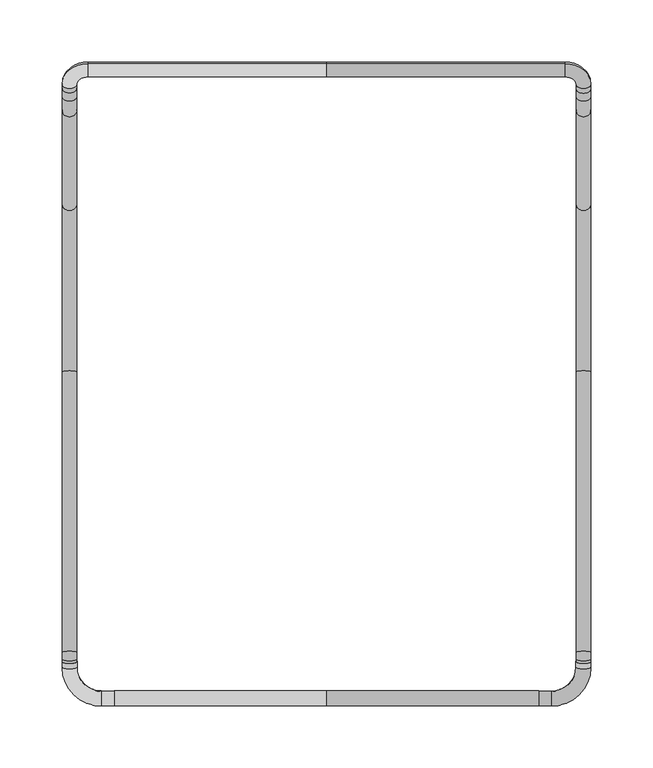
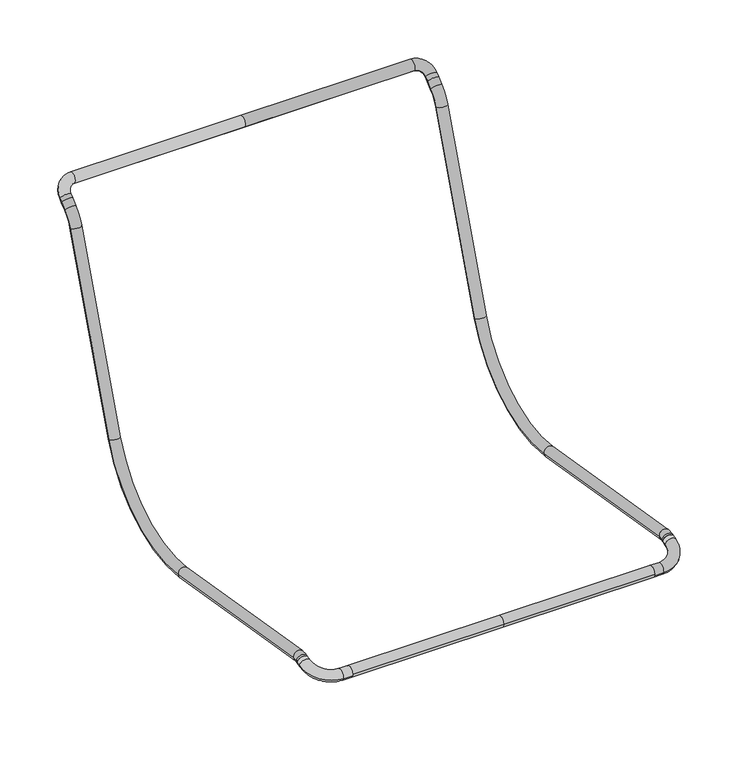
"""IFC4 building model written with IfcOpenShell, lengths in millimetres: furniture geometry, Vestre - Munch - 5113 : Vestre - Munch - 5113."""

from ifc_helpers import new_model, si_unit, point, frame, origin, place, context, project, spatial, circle_curve, ellipse_curve, trimmed, source, transform, mapped, element, save
from ifc_brep_helpers import plane_surface, cylinder_surface, revolved_surface, advanced_brep


def furniture_f1a448c8(model_context):
    return source(origin(), model_context, "Body", "AdvancedBrep", [
        advanced_brep(
        [(-213.2134791, 240.781558, 729.3874577), (-213.2134791, 234.5551993, 724.1629224), (-201.2134791, 234.5551993, 724.1629224), (-201.2134791, 240.781558, 729.3874577), (-213.2134791, 223.55476, 708.452667), (-201.2134791, 223.55476, 708.452667), (-213.2134791, 148.1249235, 501.2108943), (-201.2134791, 148.1249235, 501.2108943), (-213.2134791, 12.4655959, 422.023671), (-201.2134791, 12.4655959, 422.023671), (-213.2134791, -213.6326355, 459.6728383), (-201.2134791, -213.6326355, 459.6728383), (-213.2134791, -219.0054278, 459.4126014), (-201.2134791, -219.0054278, 459.4126014), (-213.2134791, -221.1282149, 458.8438023), (-201.2134791, -221.1282149, 458.8438023), (0.0, 260.6987135, 746.0999355), (-192.2134791, 260.6987135, 746.0999355), (-192.2134791, 251.5061802, 738.3864842), (0.0, 251.5061802, 738.3864842), (-213.2134791, 244.6117802, 732.6013957), (-201.2134791, 244.6117802, 732.6013957), (213.2134791, -221.1282149, 458.8438023), (201.2134791, -221.1282149, 458.8438023), (192.2134791, 251.5061802, 738.3864842), (192.2134791, 260.6987135, 746.0999355), (201.2134791, 244.6117802, 732.6013957), (213.2134791, 244.6117802, 732.6013957), (201.2134791, 240.781558, 729.3874577), (213.2134791, 240.781558, 729.3874577), (201.2134791, 234.5551993, 724.1629224), (213.2134791, 234.5551993, 724.1629224), (201.2134791, 223.55476, 708.452667), (213.2134791, 223.55476, 708.452667), (201.2134791, 148.1249235, 501.2108943), (213.2134791, 148.1249235, 501.2108943), (201.2134791, 12.4655959, 422.023671), (213.2134791, 12.4655959, 422.023671), (201.2134791, -213.6326355, 459.6728383), (213.2134791, -213.6326355, 459.6728383), (201.2134791, -219.0054278, 459.4126014), (213.2134791, -219.0054278, 459.4126014)],
        [
            (0, 1),
            (1, 2, circle_curve(frame((-207.2134791, 234.5551993, 724.1629224), z_axis=(0.0, 0.7660444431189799, 0.6427876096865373), x_axis=(1.0, 0.0, 0.0)), 6.0)),
            (2, 3),
            (3, 0, circle_curve(frame((-207.2134791, 240.781558, 729.3874577), z_axis=(0.0, -0.7660444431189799, -0.6427876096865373), x_axis=(1.0, 0.0, 0.0)), 6.0)),
            (0, 3, circle_curve(frame((-207.2134791, 240.781558, 729.3874577), z_axis=(0.0, -0.7660444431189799, -0.6427876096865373), x_axis=(1.0, 0.0, 0.0)), 6.0)),
            (2, 1, circle_curve(frame((-207.2134791, 234.5551993, 724.1629224), z_axis=(0.0, 0.7660444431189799, 0.6427876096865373), x_axis=(1.0, 0.0, 0.0)), 6.0)),
            (1, 4, circle_curve(frame((-213.2134791, 258.3707155, 695.7806955), z_axis=(1.0, 0.0, 0.0), x_axis=(0.0, -0.6427876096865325, 0.7660444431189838)), 37.0503659)),
            (4, 5, circle_curve(frame((-207.2134791, 223.55476, 708.452667), z_axis=(0.0, 0.34202014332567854, 0.9396926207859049), x_axis=(1.0, 0.0, 0.0)), 6.0)),
            (5, 2, circle_curve(frame((-201.2134791, 258.3707155, 695.7806955), z_axis=(-1.0, 0.0, 0.0), x_axis=(0.0, -0.6427876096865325, 0.7660444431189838)), 37.0503659)),
            (5, 4, circle_curve(frame((-207.2134791, 223.55476, 708.452667), z_axis=(0.0, 0.34202014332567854, 0.9396926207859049), x_axis=(1.0, 0.0, 0.0)), 6.0)),
            (4, 6),
            (6, 7, circle_curve(frame((-207.2134791, 148.1249235, 501.2108943), z_axis=(0.0, 0.34202014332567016, 0.939692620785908), x_axis=(1.0, 0.0, 0.0)), 6.0)),
            (7, 5),
            (7, 6, circle_curve(frame((-207.2134791, 148.1249235, 501.2108943), z_axis=(0.0, 0.34202014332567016, 0.939692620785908), x_axis=(1.0, 0.0, 0.0)), 6.0)),
            (6, 8, circle_curve(frame((-213.2134791, 32.6502009, 543.2402562), z_axis=(-1.0, 0.0, 0.0), x_axis=(0.0, 0.9396926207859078, -0.3420201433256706)), 122.8856331)),
            (8, 9, circle_curve(frame((-207.2134791, 12.4655959, 422.023671), z_axis=(0.0, 0.9864178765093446, -0.1642552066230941), x_axis=(1.0, 0.0, 0.0)), 6.0)),
            (9, 7, circle_curve(frame((-201.2134791, 32.6502009, 543.2402562), z_axis=(1.0, 0.0, 0.0), x_axis=(0.0, 0.9396926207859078, -0.3420201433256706)), 122.8856331)),
            (9, 8, circle_curve(frame((-207.2134791, 12.4655959, 422.023671), z_axis=(0.0, 0.9864178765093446, -0.1642552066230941), x_axis=(1.0, 0.0, 0.0)), 6.0)),
            (8, 10),
            (10, 11, circle_curve(frame((-207.2134791, -213.6326355, 459.6728383), z_axis=(0.0, 0.9864178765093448, -0.1642552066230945), x_axis=(1.0, 0.0, 0.0)), 6.0)),
            (11, 9),
            (11, 10, circle_curve(frame((-207.2134791, -213.6326355, 459.6728383), z_axis=(0.0, 0.9864178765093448, -0.1642552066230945), x_axis=(1.0, 0.0, 0.0)), 6.0)),
            (10, 12, circle_curve(frame((-213.2134791, -215.7185793, 447.1459159), z_axis=(1.0, 0.0, 0.0), x_axis=(0.0, 0.16425520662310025, 0.9864178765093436)), 12.6994073)),
            (12, 13, circle_curve(frame((-207.2134791, -219.0054278, 459.4126014), z_axis=(0.0, 0.9659258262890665, 0.25881904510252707), x_axis=(1.0, 0.0, 0.0)), 6.0)),
            (13, 11, circle_curve(frame((-201.2134791, -215.7185793, 447.1459159), z_axis=(-1.0, 0.0, 0.0), x_axis=(0.0, 0.16425520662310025, 0.9864178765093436)), 12.6994073)),
            (13, 12, circle_curve(frame((-207.2134791, -219.0054278, 459.4126014), z_axis=(0.0, 0.9659258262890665, 0.25881904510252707), x_axis=(1.0, 0.0, 0.0)), 6.0)),
            (12, 14),
            (14, 15, circle_curve(frame((-207.2134791, -221.1282149, 458.8438023), z_axis=(0.0, 0.9659258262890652, 0.2588190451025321), x_axis=(1.0, 0.0, 0.0)), 6.0)),
            (15, 13),
            (15, 14, circle_curve(frame((-207.2134791, -221.1282149, 458.8438023), z_axis=(0.0, 0.9659258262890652, 0.2588190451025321), x_axis=(1.0, 0.0, 0.0)), 6.0)),
            (16, 17),
            (17, 18, circle_curve(frame((-192.2134791, 256.1024468, 742.2432099), z_axis=(1.0, 0.0, 0.0), x_axis=(0.0, -0.7660444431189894, -0.6427876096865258)), 6.0)),
            (18, 19),
            (19, 16, circle_curve(frame((0.0, 256.1024468, 742.2432099), z_axis=(-1.0, 0.0, 0.0), x_axis=(0.0, -0.7660444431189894, -0.6427876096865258)), 6.0)),
            (16, 19, circle_curve(frame((0.0, 256.1024468, 742.2432099), z_axis=(-1.0, 0.0, 0.0), x_axis=(0.0, -0.7660444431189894, -0.6427876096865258)), 6.0)),
            (18, 17, circle_curve(frame((-192.2134791, 256.1024468, 742.2432099), z_axis=(1.0, 0.0, 0.0), x_axis=(0.0, -0.7660444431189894, -0.6427876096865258)), 6.0)),
            (17, 20, circle_curve(frame((-192.2134791, 244.6117802, 732.6013957), z_axis=(0.0, -0.6427876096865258, 0.7660444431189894), x_axis=(0.0, 0.7660444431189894, 0.6427876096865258)), 21.0)),
            (20, 21, circle_curve(frame((-207.2134791, 244.6117802, 732.6013957), z_axis=(0.0, 0.7660444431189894, 0.6427876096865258), x_axis=(1.0000000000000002, 0.0, 0.0)), 6.0)),
            (21, 18, circle_curve(frame((-192.2134791, 244.6117802, 732.6013957), z_axis=(0.0, 0.6427876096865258, -0.7660444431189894), x_axis=(0.0, 0.7660444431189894, 0.6427876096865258)), 9.0)),
            (21, 20, circle_curve(frame((-207.2134791, 244.6117802, 732.6013957), z_axis=(0.0, 0.7660444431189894, 0.6427876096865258), x_axis=(1.0000000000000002, 0.0, 0.0)), 6.0)),
            (20, 0),
            (3, 21),
            (22, 23, circle_curve(frame((207.2134791, -221.1282149, 458.8438023), z_axis=(0.0, -0.9659258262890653, -0.258819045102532), x_axis=(-1.0, 0.0, 0.0)), 6.0)),
            (23, 22, circle_curve(frame((207.2134791, -221.1282149, 458.8438023), z_axis=(0.0, -0.9659258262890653, -0.258819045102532), x_axis=(-1.0, 0.0, 0.0)), 6.0)),
            (19, 24),
            (24, 25, circle_curve(frame((192.2134791, 256.1024468, 742.2432099), z_axis=(-1.0, 0.0, 0.0), x_axis=(0.0, -0.7660444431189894, -0.6427876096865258)), 6.0)),
            (25, 16),
            (25, 24, circle_curve(frame((192.2134791, 256.1024468, 742.2432099), z_axis=(-1.0, 0.0, 0.0), x_axis=(0.0, -0.7660444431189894, -0.6427876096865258)), 6.0)),
            (24, 26, circle_curve(frame((192.2134791, 244.6117802, 732.6013957), z_axis=(0.0, 0.6427876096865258, -0.7660444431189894), x_axis=(0.0, 0.7660444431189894, 0.6427876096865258)), 9.0)),
            (26, 27, circle_curve(frame((207.2134791, 244.6117802, 732.6013957), z_axis=(0.0, 0.7660444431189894, 0.6427876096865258), x_axis=(-1.0000000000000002, 0.0, 0.0)), 6.0)),
            (27, 25, circle_curve(frame((192.2134791, 244.6117802, 732.6013957), z_axis=(0.0, -0.6427876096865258, 0.7660444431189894), x_axis=(0.0, 0.7660444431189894, 0.6427876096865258)), 21.0)),
            (27, 26, circle_curve(frame((207.2134791, 244.6117802, 732.6013957), z_axis=(0.0, 0.7660444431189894, 0.6427876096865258), x_axis=(-1.0000000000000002, 0.0, 0.0)), 6.0)),
            (26, 28),
            (28, 29, circle_curve(frame((207.2134791, 240.781558, 729.3874577), z_axis=(0.0, 0.7660444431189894, 0.6427876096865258), x_axis=(-1.0, 0.0, 0.0)), 6.0)),
            (29, 27),
            (29, 28, circle_curve(frame((207.2134791, 240.781558, 729.3874577), z_axis=(0.0, 0.7660444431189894, 0.6427876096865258), x_axis=(-1.0, 0.0, 0.0)), 6.0)),
            (28, 30),
            (30, 31, circle_curve(frame((207.2134791, 234.5551993, 724.1629224), z_axis=(0.0, 0.7660444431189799, 0.6427876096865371), x_axis=(-1.0, 0.0, 0.0)), 6.0)),
            (31, 29),
            (31, 30, circle_curve(frame((207.2134791, 234.5551993, 724.1629224), z_axis=(0.0, 0.7660444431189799, 0.6427876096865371), x_axis=(-1.0, 0.0, 0.0)), 6.0)),
            (30, 32, circle_curve(frame((201.2134791, 258.3707155, 695.7806955), z_axis=(1.0, 0.0, 0.0), x_axis=(0.0, -0.6427876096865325, 0.7660444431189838)), 37.0503659)),
            (32, 33, circle_curve(frame((207.2134791, 223.55476, 708.452667), z_axis=(0.0, 0.34202014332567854, 0.9396926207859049), x_axis=(-1.0, 0.0, 0.0)), 6.0)),
            (33, 31, circle_curve(frame((213.2134791, 258.3707155, 695.7806955), z_axis=(-1.0, 0.0, 0.0), x_axis=(0.0, -0.6427876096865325, 0.7660444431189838)), 37.0503659)),
            (33, 32, circle_curve(frame((207.2134791, 223.55476, 708.452667), z_axis=(0.0, 0.34202014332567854, 0.9396926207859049), x_axis=(-1.0, 0.0, 0.0)), 6.0)),
            (32, 34),
            (34, 35, circle_curve(frame((207.2134791, 148.1249235, 501.2108943), z_axis=(0.0, 0.3420201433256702, 0.9396926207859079), x_axis=(-1.0, 0.0, 0.0)), 6.0)),
            (35, 33),
            (35, 34, circle_curve(frame((207.2134791, 148.1249235, 501.2108943), z_axis=(0.0, 0.3420201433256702, 0.9396926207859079), x_axis=(-1.0, 0.0, 0.0)), 6.0)),
            (34, 36, circle_curve(frame((201.2134791, 32.6502009, 543.2402562), z_axis=(-1.0, 0.0, 0.0), x_axis=(0.0, 0.9396926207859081, -0.34202014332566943)), 122.8856331)),
            (36, 37, circle_curve(frame((207.2134791, 12.4655959, 422.023671), z_axis=(0.0, 0.9864178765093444, -0.16425520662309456), x_axis=(-1.0, 0.0, 0.0)), 6.0)),
            (37, 35, circle_curve(frame((213.2134791, 32.6502009, 543.2402562), z_axis=(1.0, 0.0, 0.0), x_axis=(0.0, 0.9396926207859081, -0.34202014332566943)), 122.8856331)),
            (37, 36, circle_curve(frame((207.2134791, 12.4655959, 422.023671), z_axis=(0.0, 0.9864178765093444, -0.16425520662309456), x_axis=(-1.0, 0.0, 0.0)), 6.0)),
            (36, 38),
            (38, 39, circle_curve(frame((207.2134791, -213.6326355, 459.6728383), z_axis=(0.0, 0.9864178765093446, -0.16425520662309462), x_axis=(-1.0, 0.0, 0.0)), 6.0)),
            (39, 37),
            (39, 38, circle_curve(frame((207.2134791, -213.6326355, 459.6728383), z_axis=(0.0, 0.9864178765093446, -0.16425520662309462), x_axis=(-1.0, 0.0, 0.0)), 6.0)),
            (38, 40, circle_curve(frame((201.2134791, -215.7185793, 447.1459159), z_axis=(1.0, 0.0, 0.0), x_axis=(0.0, 0.1642552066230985, 0.9864178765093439)), 12.6994073)),
            (40, 41, circle_curve(frame((207.2134791, -219.0054278, 459.4126014), z_axis=(0.0, 0.9659258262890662, 0.2588190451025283), x_axis=(-1.0, 0.0, 0.0)), 6.0)),
            (41, 39, circle_curve(frame((213.2134791, -215.7185793, 447.1459159), z_axis=(-1.0, 0.0, 0.0), x_axis=(0.0, 0.1642552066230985, 0.9864178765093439)), 12.6994073)),
            (41, 40, circle_curve(frame((207.2134791, -219.0054278, 459.4126014), z_axis=(0.0, 0.9659258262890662, 0.2588190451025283), x_axis=(-1.0, 0.0, 0.0)), 6.0)),
            (40, 23),
            (22, 41),
        ],
        [
            cylinder_surface(frame((-207.2134791, 240.781558, 729.3874577), z_axis=(0.0, 0.7660444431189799, 0.6427876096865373), x_axis=(1.0, 0.0, 0.0)), 6.0),
            revolved_surface(trimmed(ellipse_curve(frame((-207.2134791, 234.5551993, 724.1629224), z_axis=(0.0, 0.7660444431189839, 0.6427876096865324), x_axis=(1.0, 0.0, 0.0)), 6.0, 6.0), [point((-213.2134791, 234.5551993, 724.1629224))], [point((-201.2134791, 234.5551993, 724.1629224))], True, "CARTESIAN"), (0.0, 258.3707155, 695.7806955), (1.0, 0.0, 0.0)),
            revolved_surface(trimmed(ellipse_curve(frame((-207.2134791, 234.5551993, 724.1629224), z_axis=(0.0, 0.7660444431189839, 0.6427876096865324), x_axis=(1.0, 0.0, 0.0)), 6.0, 6.0), [point((-201.2134791, 234.5551993, 724.1629224))], [point((-213.2134791, 234.5551993, 724.1629224))], True, "CARTESIAN"), (0.0, 258.3707155, 695.7806955), (1.0, 0.0, 0.0)),
            cylinder_surface(frame((-207.2134791, 223.55476, 708.452667), z_axis=(0.0, 0.34202014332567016, 0.939692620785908), x_axis=(1.0, 0.0, 0.0)), 6.0),
            revolved_surface(trimmed(ellipse_curve(frame((-207.2134791, 148.1249235, 501.2108943), z_axis=(0.0, 0.3420201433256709, 0.9396926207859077), x_axis=(1.0, 0.0, 0.0)), 6.0, 6.0), [point((-213.2134791, 148.1249235, 501.2108943))], [point((-201.2134791, 148.1249235, 501.2108943))], True, "CARTESIAN"), (0.0, 32.6502009, 543.2402562), (-1.0, 0.0, 0.0)),
            revolved_surface(trimmed(ellipse_curve(frame((-207.2134791, 148.1249235, 501.2108943), z_axis=(0.0, 0.3420201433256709, 0.9396926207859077), x_axis=(1.0, 0.0, 0.0)), 6.0, 6.0), [point((-201.2134791, 148.1249235, 501.2108943))], [point((-213.2134791, 148.1249235, 501.2108943))], True, "CARTESIAN"), (0.0, 32.6502009, 543.2402562), (-1.0, 0.0, 0.0)),
            cylinder_surface(frame((-207.2134791, 12.4655959, 422.023671), z_axis=(0.0, 0.9864178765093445, -0.16425520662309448), x_axis=(1.0, 0.0, 0.0)), 6.0),
            revolved_surface(trimmed(ellipse_curve(frame((-207.2134791, -213.6326355, 459.6728383), z_axis=(0.0, 0.9864178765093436, -0.16425520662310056), x_axis=(1.0, 0.0, 0.0)), 6.0, 6.0), [point((-213.2134791, -213.6326355, 459.6728383))], [point((-201.2134791, -213.6326355, 459.6728383))], True, "CARTESIAN"), (0.0, -215.7185793, 447.1459159), (1.0, 0.0, 0.0)),
            revolved_surface(trimmed(ellipse_curve(frame((-207.2134791, -213.6326355, 459.6728383), z_axis=(0.0, 0.9864178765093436, -0.16425520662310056), x_axis=(1.0, 0.0, 0.0)), 6.0, 6.0), [point((-201.2134791, -213.6326355, 459.6728383))], [point((-213.2134791, -213.6326355, 459.6728383))], True, "CARTESIAN"), (0.0, -215.7185793, 447.1459159), (1.0, 0.0, 0.0)),
            cylinder_surface(frame((-207.2134791, -219.0054278, 459.4126014), z_axis=(0.0, 0.9659258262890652, 0.2588190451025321), x_axis=(1.0, 0.0, 0.0)), 6.0),
            plane_surface(frame((-194.1292893, -218.0064913, 447.193371), z_axis=(0.0, -0.9659258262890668, -0.2588190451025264), x_axis=(-1.0, 0.0, 0.0))),
            cylinder_surface(frame((0.0, 256.1024468, 742.2432099), z_axis=(1.0000000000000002, 0.0, 0.0), x_axis=(0.0, -0.7660444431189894, -0.6427876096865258)), 6.0),
            revolved_surface(trimmed(ellipse_curve(frame((-192.2134791, 256.1024468, 742.2432099), z_axis=(1.0000000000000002, 0.0, 0.0), x_axis=(0.0, -0.7660444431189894, -0.6427876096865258)), 6.0, 6.0), [point((-192.2134791, 260.6987135, 746.0999355))], [point((-192.2134791, 251.5061802, 738.3864842))], True, "CARTESIAN"), (-192.2134791, 724.1170436, 161.1492754), (0.0, -0.6427876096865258, 0.7660444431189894)),
            revolved_surface(trimmed(ellipse_curve(frame((-192.2134791, 256.1024468, 742.2432099), z_axis=(1.0000000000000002, 0.0, 0.0), x_axis=(0.0, -0.7660444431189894, -0.6427876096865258)), 6.0, 6.0), [point((-192.2134791, 251.5061802, 738.3864842))], [point((-192.2134791, 260.6987135, 746.0999355))], True, "CARTESIAN"), (-192.2134791, 724.1170436, 161.1492754), (0.0, -0.6427876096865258, 0.7660444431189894)),
            cylinder_surface(frame((-207.2134791, 244.6117802, 732.6013957), z_axis=(0.0, 0.7660444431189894, 0.6427876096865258), x_axis=(1.0, 0.0, 0.0)), 6.0),
            plane_surface(frame((194.1292893, -226.6812485, 479.5680059), z_axis=(0.0, -0.9659258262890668, -0.2588190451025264), x_axis=(1.0, 0.0, 0.0))),
            cylinder_surface(frame((0.0, 256.1024468, 742.2432099), z_axis=(-1.0000000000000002, 0.0, 0.0), x_axis=(0.0, -0.7660444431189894, -0.6427876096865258)), 6.0),
            revolved_surface(trimmed(ellipse_curve(frame((192.2134791, 256.1024468, 742.2432099), z_axis=(-1.0000000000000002, 0.0, 0.0), x_axis=(0.0, -0.7660444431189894, -0.6427876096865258)), 6.0, 6.0), [point((192.2134791, 251.5061802, 738.3864842))], [point((192.2134791, 260.6987135, 746.0999355))], True, "CARTESIAN"), (192.2134791, 724.1170436, 161.1492754), (0.0, 0.6427876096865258, -0.7660444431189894)),
            revolved_surface(trimmed(ellipse_curve(frame((192.2134791, 256.1024468, 742.2432099), z_axis=(-1.0000000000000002, 0.0, 0.0), x_axis=(0.0, -0.7660444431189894, -0.6427876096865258)), 6.0, 6.0), [point((192.2134791, 260.6987135, 746.0999355))], [point((192.2134791, 251.5061802, 738.3864842))], True, "CARTESIAN"), (192.2134791, 724.1170436, 161.1492754), (0.0, 0.6427876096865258, -0.7660444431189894)),
            cylinder_surface(frame((207.2134791, 244.6117802, 732.6013957), z_axis=(0.0, 0.7660444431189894, 0.6427876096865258), x_axis=(-1.0, 0.0, 0.0)), 6.0),
            cylinder_surface(frame((207.2134791, 240.781558, 729.3874577), z_axis=(0.0, 0.7660444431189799, 0.6427876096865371), x_axis=(-1.0, 0.0, 0.0)), 6.0),
            revolved_surface(trimmed(ellipse_curve(frame((207.2134791, 234.5551993, 724.1629224), z_axis=(0.0, 0.7660444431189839, 0.6427876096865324), x_axis=(-1.0, 0.0, 0.0)), 6.0, 6.0), [point((201.2134791, 234.5551993, 724.1629224))], [point((213.2134791, 234.5551993, 724.1629224))], True, "CARTESIAN"), (0.0, 258.3707155, 695.7806955), (1.0, 0.0, 0.0)),
            revolved_surface(trimmed(ellipse_curve(frame((207.2134791, 234.5551993, 724.1629224), z_axis=(0.0, 0.7660444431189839, 0.6427876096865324), x_axis=(-1.0, 0.0, 0.0)), 6.0, 6.0), [point((213.2134791, 234.5551993, 724.1629224))], [point((201.2134791, 234.5551993, 724.1629224))], True, "CARTESIAN"), (0.0, 258.3707155, 695.7806955), (1.0, 0.0, 0.0)),
            cylinder_surface(frame((207.2134791, 223.55476, 708.452667), z_axis=(0.0, 0.3420201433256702, 0.9396926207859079), x_axis=(-1.0, 0.0, 0.0)), 6.0),
            revolved_surface(trimmed(ellipse_curve(frame((207.2134791, 148.1249235, 501.2108943), z_axis=(0.0, 0.3420201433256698, 0.939692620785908), x_axis=(-1.0, 0.0, 0.0)), 6.0, 6.0), [point((201.2134791, 148.1249235, 501.2108943))], [point((213.2134791, 148.1249235, 501.2108943))], True, "CARTESIAN"), (0.0, 32.6502009, 543.2402562), (-1.0, 0.0, 0.0)),
            revolved_surface(trimmed(ellipse_curve(frame((207.2134791, 148.1249235, 501.2108943), z_axis=(0.0, 0.3420201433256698, 0.939692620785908), x_axis=(-1.0, 0.0, 0.0)), 6.0, 6.0), [point((213.2134791, 148.1249235, 501.2108943))], [point((201.2134791, 148.1249235, 501.2108943))], True, "CARTESIAN"), (0.0, 32.6502009, 543.2402562), (-1.0, 0.0, 0.0)),
            cylinder_surface(frame((207.2134791, 12.4655959, 422.023671), z_axis=(0.0, 0.9864178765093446, -0.16425520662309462), x_axis=(-1.0, 0.0, 0.0)), 6.0),
            revolved_surface(trimmed(ellipse_curve(frame((207.2134791, -213.6326355, 459.6728383), z_axis=(0.0, 0.9864178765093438, -0.1642552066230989), x_axis=(-1.0, 0.0, 0.0)), 6.0, 6.0), [point((201.2134791, -213.6326355, 459.6728383))], [point((213.2134791, -213.6326355, 459.6728383))], True, "CARTESIAN"), (0.0, -215.7185793, 447.1459159), (1.0, 0.0, 0.0)),
            revolved_surface(trimmed(ellipse_curve(frame((207.2134791, -213.6326355, 459.6728383), z_axis=(0.0, 0.9864178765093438, -0.1642552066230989), x_axis=(-1.0, 0.0, 0.0)), 6.0, 6.0), [point((213.2134791, -213.6326355, 459.6728383))], [point((201.2134791, -213.6326355, 459.6728383))], True, "CARTESIAN"), (0.0, -215.7185793, 447.1459159), (1.0, 0.0, 0.0)),
            cylinder_surface(frame((207.2134791, -219.0054278, 459.4126014), z_axis=(0.0, 0.9659258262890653, 0.258819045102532), x_axis=(-1.0, 0.0, 0.0)), 6.0),
        ],
        [
            (0, [[1, 2, 3, 4]]),
            (0, [[-1, 5, -3, 6]]),
            (1, [[-2, 7, 8, 9]]),
            (2, [[-6, -9, 10, -7]]),
            (3, [[-8, 11, 12, 13]]),
            (3, [[-10, -13, 14, -11]]),
            (4, [[-12, 15, 16, 17]]),
            (5, [[-14, -17, 18, -15]]),
            (6, [[-16, 19, 20, 21]]),
            (6, [[-18, -21, 22, -19]]),
            (7, [[-20, 23, 24, 25]]),
            (8, [[-22, -25, 26, -23]]),
            (9, [[-24, 27, 28, 29]]),
            (9, [[-26, -29, 30, -27]]),
            (10, [[-28, -30]]),
            (11, [[31, 32, 33, 34]]),
            (11, [[-31, 35, -33, 36]]),
            (12, [[-32, 37, 38, 39]]),
            (13, [[-36, -39, 40, -37]]),
            (14, [[-38, 41, -4, 42]]),
            (14, [[-40, -42, -5, -41]]),
            (15, [[43, 44]]),
            (16, [[45, 46, 47, -34]]),
            (16, [[-45, -35, -47, 48]]),
            (17, [[-46, 49, 50, 51]]),
            (18, [[-48, -51, 52, -49]]),
            (19, [[-50, 53, 54, 55]]),
            (19, [[-52, -55, 56, -53]]),
            (20, [[57, 58, 59, -54]]),
            (20, [[-57, -56, -59, 60]]),
            (21, [[-58, 61, 62, 63]]),
            (22, [[-60, -63, 64, -61]]),
            (23, [[-62, 65, 66, 67]]),
            (23, [[-64, -67, 68, -65]]),
            (24, [[-66, 69, 70, 71]]),
            (25, [[-68, -71, 72, -69]]),
            (26, [[-70, 73, 74, 75]]),
            (26, [[-72, -75, 76, -73]]),
            (27, [[-74, 77, 78, 79]]),
            (28, [[-76, -79, 80, -77]]),
            (29, [[-78, 81, -43, 82]]),
            (29, [[-80, -82, -44, -81]]),
        ],
    ),
        advanced_brep(
        [(-171.1338341, -245.1629034, 452.3624997), (-181.1338341, -245.1629034, 452.3624997), (-181.1338341, -256.8309444, 449.2360575), (-171.1338341, -256.8309444, 449.2360575), (-171.1338341, -257.0367464, 450.7992786), (-171.1338341, -244.9571014, 450.7992786), (-201.1338341, -225.8443868, 457.5388806), (-213.2134791, -225.8443868, 457.5388806), (-201.1338341, -221.1179081, 458.8053367), (-213.2134791, -221.1179081, 458.8053367), (0.0, -244.9571014, 450.7992786), (0.0, -257.0367464, 450.7992786), (201.1338341, -221.1179081, 458.8053367), (213.2134791, -221.1179081, 458.8053367), (171.1338341, -257.0367464, 450.7992786), (171.1338341, -245.1629034, 452.3624997), (171.1338341, -244.9571014, 450.7992786), (171.1338341, -256.8309444, 449.2360575), (181.1338341, -256.8309444, 449.2360575), (181.1338341, -245.1629034, 452.3624997), (213.2134791, -225.8443868, 457.5388806), (201.1338341, -225.8443868, 457.5388806)],
        [
            (0, 1),
            (1, 2, circle_curve(frame((-181.1338341, -250.9969239, 450.7992786), z_axis=(1.0, 0.0, 0.0), x_axis=(0.0, -0.9659258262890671, -0.2588190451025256)), 6.0398225)),
            (2, 3),
            (3, 4, circle_curve(frame((-171.1338341, -250.9969239, 450.7992786), z_axis=(-1.0, 0.0, 0.0), x_axis=(0.0, -0.9659258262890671, -0.2588190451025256)), 6.0398225)),
            (4, 0, circle_curve(frame((-171.1338341, -250.9969239, 450.7992786), z_axis=(-1.0, 0.0, 0.0), x_axis=(0.0, -0.9659258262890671, -0.2588190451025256)), 6.0398225)),
            (0, 5, circle_curve(frame((-171.1338341, -250.9969239, 450.7992786), z_axis=(-1.0, 0.0, 0.0), x_axis=(0.0, -0.9659258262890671, -0.2588190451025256)), 6.0398225)),
            (5, 3, circle_curve(frame((-171.1338341, -250.9969239, 450.7992786), z_axis=(-1.0, 0.0, 0.0), x_axis=(0.0, -0.9659258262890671, -0.2588190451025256)), 6.0398225)),
            (2, 1, circle_curve(frame((-181.1338341, -250.9969239, 450.7992786), z_axis=(1.0, 0.0, 0.0), x_axis=(0.0, -0.9659258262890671, -0.2588190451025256)), 6.0398225)),
            (1, 6, circle_curve(frame((-181.1338341, -225.8443868, 457.5388806), z_axis=(0.0, 0.2588190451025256, -0.9659258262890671), x_axis=(0.0, -0.9659258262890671, -0.2588190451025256)), 20.0)),
            (6, 7, circle_curve(frame((-207.1736566, -225.8443868, 457.5388806), z_axis=(0.0, -0.9659258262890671, -0.2588190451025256), x_axis=(-1.0000000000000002, 0.0, 0.0)), 6.0398225)),
            (7, 2, circle_curve(frame((-181.1338341, -225.8443868, 457.5388806), z_axis=(0.0, -0.2588190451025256, 0.9659258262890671), x_axis=(0.0, -0.9659258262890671, -0.2588190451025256)), 32.079645)),
            (7, 6, circle_curve(frame((-207.1736566, -225.8443868, 457.5388806), z_axis=(0.0, -0.9659258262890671, -0.2588190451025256), x_axis=(-1.0000000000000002, 0.0, 0.0)), 6.0398225)),
            (6, 8),
            (8, 9, circle_curve(frame((-207.1736566, -221.1179081, 458.8053367), z_axis=(0.0, -0.9659258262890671, -0.25881904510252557), x_axis=(-1.0, 0.0, 0.0)), 6.0398225)),
            (9, 7),
            (9, 8, circle_curve(frame((-207.1736566, -221.1179081, 458.8053367), z_axis=(0.0, -0.9659258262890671, -0.25881904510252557), x_axis=(-1.0, 0.0, 0.0)), 6.0398225)),
            (10, 5),
            (4, 11),
            (11, 10, circle_curve(frame((0.0, -250.9969239, 450.7992786), z_axis=(-1.0, 0.0, 0.0), x_axis=(0.0, -1.0, 0.0)), 6.0398225)),
            (10, 11, circle_curve(frame((0.0, -250.9969239, 450.7992786), z_axis=(-1.0, 0.0, 0.0), x_axis=(0.0, -1.0, 0.0)), 6.0398225)),
            (12, 13, circle_curve(frame((207.1736566, -221.1179081, 458.8053367), z_axis=(0.0, 0.9659258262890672, 0.2588190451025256), x_axis=(1.0, 0.0, 0.0)), 6.0398225)),
            (13, 12, circle_curve(frame((207.1736566, -221.1179081, 458.8053367), z_axis=(0.0, 0.9659258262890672, 0.2588190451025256), x_axis=(1.0, 0.0, 0.0)), 6.0398225)),
            (11, 14),
            (14, 15, circle_curve(frame((171.1338341, -250.9969239, 450.7992786), z_axis=(-1.0, 0.0, 0.0), x_axis=(0.0, -1.0, 0.0)), 6.0398225)),
            (15, 16, circle_curve(frame((171.1338341, -250.9969239, 450.7992786), z_axis=(-1.0, 0.0, 0.0), x_axis=(0.0, -1.0, 0.0)), 6.0398225)),
            (16, 10),
            (16, 17, circle_curve(frame((171.1338341, -250.9969239, 450.7992786), z_axis=(-1.0, 0.0, 0.0), x_axis=(0.0, -1.0, 0.0)), 6.0398225)),
            (17, 14, circle_curve(frame((171.1338341, -250.9969239, 450.7992786), z_axis=(-1.0, 0.0, 0.0), x_axis=(0.0, -1.0, 0.0)), 6.0398225)),
            (17, 18),
            (18, 19, circle_curve(frame((181.1338341, -250.9969239, 450.7992786), z_axis=(-1.0, 0.0, 0.0), x_axis=(0.0, -0.9659258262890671, -0.2588190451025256)), 6.0398225)),
            (19, 15),
            (19, 18, circle_curve(frame((181.1338341, -250.9969239, 450.7992786), z_axis=(-1.0, 0.0, 0.0), x_axis=(0.0, -0.9659258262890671, -0.2588190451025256)), 6.0398225)),
            (18, 20, circle_curve(frame((181.1338341, -225.8443868, 457.5388806), z_axis=(0.0, -0.2588190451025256, 0.9659258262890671), x_axis=(0.0, -0.9659258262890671, -0.2588190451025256)), 32.079645)),
            (20, 21, circle_curve(frame((207.1736566, -225.8443868, 457.5388806), z_axis=(0.0, -0.9659258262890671, -0.2588190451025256), x_axis=(1.0000000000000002, 0.0, 0.0)), 6.0398225)),
            (21, 19, circle_curve(frame((181.1338341, -225.8443868, 457.5388806), z_axis=(0.0, 0.2588190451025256, -0.9659258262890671), x_axis=(0.0, -0.9659258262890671, -0.2588190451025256)), 20.0)),
            (21, 20, circle_curve(frame((207.1736566, -225.8443868, 457.5388806), z_axis=(0.0, -0.9659258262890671, -0.2588190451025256), x_axis=(1.0000000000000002, 0.0, 0.0)), 6.0398225)),
            (20, 13),
            (12, 21),
        ],
        [
            cylinder_surface(frame((-171.1338341, -250.9969239, 450.7992786), z_axis=(1.0000000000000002, 0.0, 0.0), x_axis=(0.0, -0.9659258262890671, -0.2588190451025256)), 6.0398225),
            revolved_surface(trimmed(ellipse_curve(frame((-181.1338341, -250.9969239, 450.7992786), z_axis=(1.0000000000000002, 0.0, 0.0), x_axis=(0.0, -0.9659258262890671, -0.2588190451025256)), 6.0398225, 6.0398225), [point((-181.1338341, -245.1629034, 452.3624997))], [point((-181.1338341, -256.8309444, 449.2360575))], True, "CARTESIAN"), (-181.1338341, -109.168948, 22.1002149), (0.0, 0.2588190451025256, -0.9659258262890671)),
            revolved_surface(trimmed(ellipse_curve(frame((-181.1338341, -250.9969239, 450.7992786), z_axis=(1.0000000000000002, 0.0, 0.0), x_axis=(0.0, -0.9659258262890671, -0.2588190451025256)), 6.0398225, 6.0398225), [point((-181.1338341, -256.8309444, 449.2360575))], [point((-181.1338341, -245.1629034, 452.3624997))], True, "CARTESIAN"), (-181.1338341, -109.168948, 22.1002149), (0.0, 0.2588190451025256, -0.9659258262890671)),
            cylinder_surface(frame((-207.1736566, -225.8443868, 457.5388806), z_axis=(0.0, -0.9659258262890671, -0.25881904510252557), x_axis=(-1.0, 0.0, 0.0)), 6.0398225),
            plane_surface(frame((-175.4223898, -224.7310679, 472.2898327), z_axis=(0.0, 0.9659258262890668, 0.25881904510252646), x_axis=(-1.0, 0.0, 0.0))),
            cylinder_surface(frame((-171.1338341, -250.9969239, 450.7992786), z_axis=(1.0, 0.0, 0.0), x_axis=(0.0, -1.0, 0.0)), 6.0398225),
            plane_surface(frame((175.4223898, -217.9983044, 447.1628172), z_axis=(0.0, 0.9659258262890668, 0.25881904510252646), x_axis=(1.0, 0.0, 0.0))),
            cylinder_surface(frame((171.1338341, -250.9969239, 450.7992786), z_axis=(-1.0, 0.0, 0.0), x_axis=(0.0, -1.0, 0.0)), 6.0398225),
            cylinder_surface(frame((171.1338341, -250.9969239, 450.7992786), z_axis=(-1.0000000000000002, 0.0, 0.0), x_axis=(0.0, -0.9659258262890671, -0.2588190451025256)), 6.0398225),
            revolved_surface(trimmed(ellipse_curve(frame((181.1338341, -250.9969239, 450.7992786), z_axis=(-1.0000000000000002, 0.0, 0.0), x_axis=(0.0, -0.9659258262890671, -0.2588190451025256)), 6.0398225, 6.0398225), [point((181.1338341, -256.8309444, 449.2360575))], [point((181.1338341, -245.1629034, 452.3624997))], True, "CARTESIAN"), (181.1338341, -109.168948, 22.1002149), (0.0, -0.2588190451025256, 0.9659258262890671)),
            revolved_surface(trimmed(ellipse_curve(frame((181.1338341, -250.9969239, 450.7992786), z_axis=(-1.0000000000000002, 0.0, 0.0), x_axis=(0.0, -0.9659258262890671, -0.2588190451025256)), 6.0398225, 6.0398225), [point((181.1338341, -245.1629034, 452.3624997))], [point((181.1338341, -256.8309444, 449.2360575))], True, "CARTESIAN"), (181.1338341, -109.168948, 22.1002149), (0.0, -0.2588190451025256, 0.9659258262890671)),
            cylinder_surface(frame((207.1736566, -225.8443868, 457.5388806), z_axis=(0.0, -0.965925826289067, -0.25881904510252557), x_axis=(1.0, 0.0, 0.0)), 6.0398225),
        ],
        [
            (0, [[1, 2, 3, 4, 5]]),
            (0, [[-1, 6, 7, -3, 8]]),
            (1, [[-2, 9, 10, 11]]),
            (2, [[-8, -11, 12, -9]]),
            (3, [[-10, 13, 14, 15]]),
            (3, [[-12, -15, 16, -13]]),
            (4, [[-14, -16]]),
            (5, [[17, -6, -5, 18, 19]]),
            (5, [[-17, 20, -18, -4, -7]]),
            (6, [[21, 22]]),
            (7, [[23, 24, 25, 26, -19]]),
            (7, [[-23, -20, -26, 27, 28]]),
            (8, [[29, 30, 31, -24, -28]]),
            (8, [[-29, -27, -25, -31, 32]]),
            (9, [[-30, 33, 34, 35]]),
            (10, [[-32, -35, 36, -33]]),
            (11, [[-34, 37, -21, 38]]),
            (11, [[-36, -38, -22, -37]]),
        ],
    ),
    ])


if __name__ == "__main__":
    model = new_model("IFC4")
    model_context = context("Model", 3, world=origin())
    ifc_project = project(units=[si_unit("LENGTHUNIT", "METRE", prefix="MILLI")], contexts=[model_context])
    site = spatial("IfcSite", under=ifc_project)
    building = spatial("IfcBuilding", under=site)
    placement = place(None, origin())
    furniture_shape = furniture_f1a448c8(model_context)
    element("IfcFurniture", 1, ObjectType="Vestre - Munch - 5113 : Vestre - Munch - 5113", at=placement, inside=building, context=model_context, shape_type="MappedRepresentation", body=[
        mapped(furniture_shape, transform((0.0, 0.0, 0.0), x_axis=(1.0, 0.0, 0.0), y_axis=(0.0, 1.0, 0.0), z_axis=(0.0, 0.0, 1.0))),
    ])
    save(model, "model.ifc")
